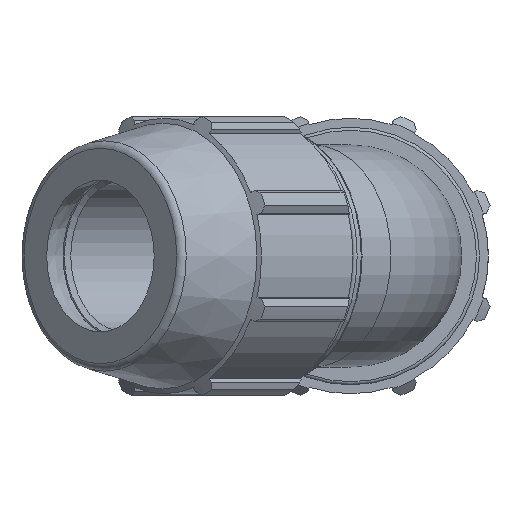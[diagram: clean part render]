
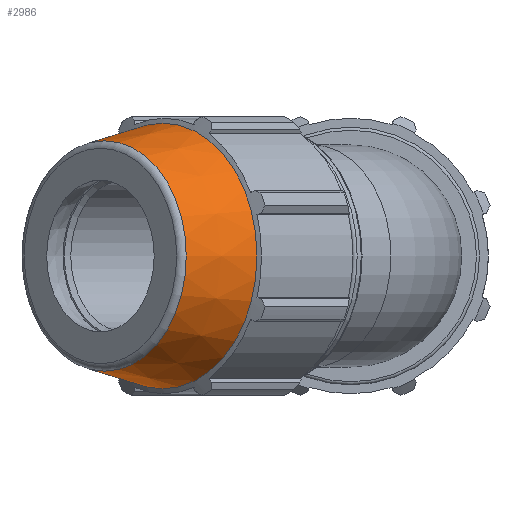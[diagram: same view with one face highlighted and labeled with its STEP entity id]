
A CAD part, left-side view. The second image highlights one B-rep face of the part: STEP entity #2986.
In plain terms, the highlighted conical face has half-angle 12 degrees and reference radius 34.18 mm.
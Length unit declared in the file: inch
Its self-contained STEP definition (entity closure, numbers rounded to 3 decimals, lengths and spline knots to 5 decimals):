
#342=LINE('',#5121,#550);
#550=VECTOR('',#4115,1.34567);
#640=CONICAL_SURFACE('',#3307,1.34567,0.209);
#782=FACE_OUTER_BOUND('',#936,.T.);
#936=EDGE_LOOP('',(#2628,#2629,#2630,#2631,#2632,#2633,#2634));
#1058=CIRCLE('',#3236,1.44823);
#1059=CIRCLE('',#3237,1.44823);
#1095=CIRCLE('',#3303,1.25706);
#1096=CIRCLE('',#3304,1.25706);
#1097=CIRCLE('',#3305,1.25706);
#1340=VERTEX_POINT('',#4945);
#1341=VERTEX_POINT('',#4946);
#1391=VERTEX_POINT('',#5112);
#1392=VERTEX_POINT('',#5114);
#1393=VERTEX_POINT('',#5116);
#1730=EDGE_CURVE('',#1340,#1341,#1058,.T.);
#1731=EDGE_CURVE('',#1341,#1340,#1059,.T.);
#1817=EDGE_CURVE('',#1391,#1392,#1095,.T.);
#1818=EDGE_CURVE('',#1392,#1393,#1096,.T.);
#1819=EDGE_CURVE('',#1393,#1391,#1097,.T.);
#1821=EDGE_CURVE('',#1392,#1341,#342,.T.);
#2628=ORIENTED_EDGE('',*,*,#1819,.F.);
#2629=ORIENTED_EDGE('',*,*,#1818,.F.);
#2630=ORIENTED_EDGE('',*,*,#1821,.T.);
#2631=ORIENTED_EDGE('',*,*,#1731,.T.);
#2632=ORIENTED_EDGE('',*,*,#1730,.T.);
#2633=ORIENTED_EDGE('',*,*,#1821,.F.);
#2634=ORIENTED_EDGE('',*,*,#1817,.F.);
#2986=ADVANCED_FACE('',(#782),#640,.T.);
#3236=AXIS2_PLACEMENT_3D('',#4947,#3921,#3922);
#3237=AXIS2_PLACEMENT_3D('',#4948,#3923,#3924);
#3303=AXIS2_PLACEMENT_3D('',#5115,#4105,#4106);
#3304=AXIS2_PLACEMENT_3D('',#5117,#4107,#4108);
#3305=AXIS2_PLACEMENT_3D('',#5118,#4109,#4110);
#3307=AXIS2_PLACEMENT_3D('',#5120,#4113,#4114);
#3921=DIRECTION('center_axis',(-0.707,0.707,0.));
#3922=DIRECTION('ref_axis',(0.,0.,-1.));
#3923=DIRECTION('center_axis',(-0.707,0.707,0.));
#3924=DIRECTION('ref_axis',(0.,0.,-1.));
#4105=DIRECTION('center_axis',(-0.707,0.707,0.));
#4106=DIRECTION('ref_axis',(0.707,0.707,0.));
#4107=DIRECTION('center_axis',(-0.707,0.707,0.));
#4108=DIRECTION('ref_axis',(0.707,0.707,0.));
#4109=DIRECTION('center_axis',(-0.707,0.707,0.));
#4110=DIRECTION('ref_axis',(0.707,0.707,0.));
#4113=DIRECTION('center_axis',(0.707,-0.707,0.));
#4114=DIRECTION('ref_axis',(-0.707,-0.707,0.));
#4115=DIRECTION('',(0.839,-0.545,0.));
#4945=CARTESIAN_POINT('',(-3.07113,1.02302,0.));
#4946=CARTESIAN_POINT('',(-1.02302,3.07113,0.));
#4947=CARTESIAN_POINT('Origin',(-2.04707,2.04707,0.));
#4948=CARTESIAN_POINT('Origin',(-2.04707,2.04707,0.));
#5112=CARTESIAN_POINT('',(-2.68302,2.68302,1.25706));
#5114=CARTESIAN_POINT('',(-1.79414,3.57189,0.));
#5115=CARTESIAN_POINT('Origin',(-2.68302,2.68302,0.));
#5116=CARTESIAN_POINT('',(-3.57189,1.79414,0.));
#5117=CARTESIAN_POINT('Origin',(-2.68302,2.68302,0.));
#5118=CARTESIAN_POINT('Origin',(-2.68302,2.68302,0.));
#5120=CARTESIAN_POINT('Origin',(-2.38825,2.38825,0.));
#5121=CARTESIAN_POINT('',(-1.43672,3.33978,0.));
